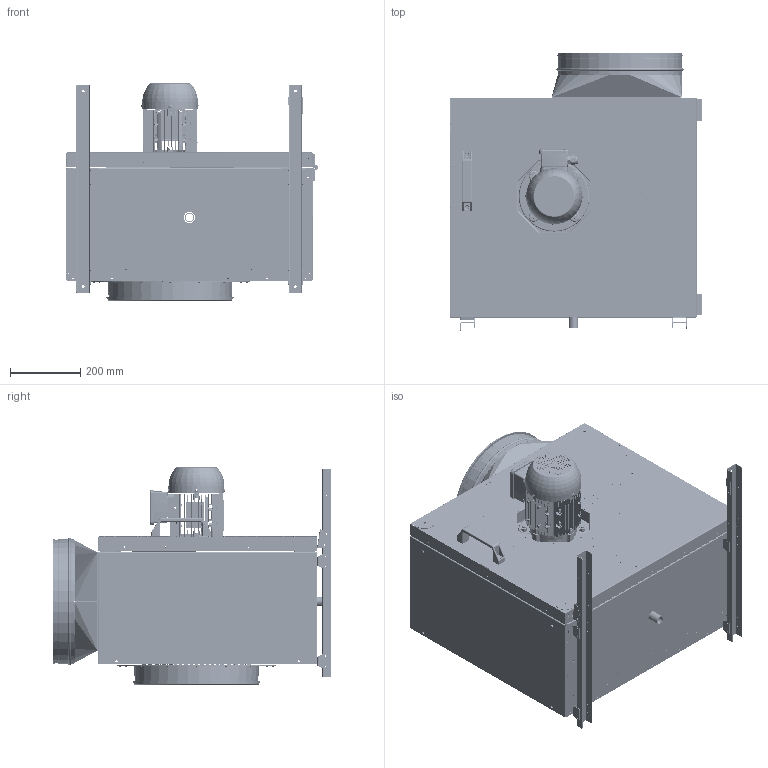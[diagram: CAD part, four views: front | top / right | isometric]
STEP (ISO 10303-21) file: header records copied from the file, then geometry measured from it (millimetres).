
FILE_DESCRIPTION (( 'STEP AP203' ), '1' );
FILE_NAME ('145862-00_MPS355D4F430_step.step', '2018-10-09T12:00:11', ( '' ), ( '' ), 'SwSTEP 2.0', 'SolidWorks 2017', '' );
FILE_SCHEMA (( 'CONFIG_CONTROL_DESIGN' ));
Products named in the file (1): 145862-00_MPS355D4F430_step
Bounding box: 715.37 x 790.34 x 616.4 mm (x, y, z)
Surface area: 7499026.3 mm2 (no closed solid volume)
Topology: 0 solids, 316 shells, 2832 faces, 15826 edges, 12763 vertices
Faces by surface type: plane 1350, cylinder 1095, bspline 193, torus 114, cone 80
Entity records: 175924 total; most frequent: CARTESIAN_POINT 57502, DIRECTION 23843, ORIENTED_EDGE 20513, EDGE_CURVE 15826, VERTEX_POINT 12763, LINE 8665, VECTOR 8665, AXIS2_PLACEMENT_3D 7589
